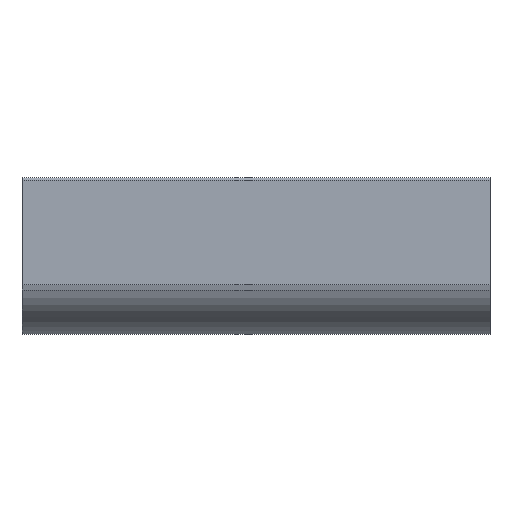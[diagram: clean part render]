
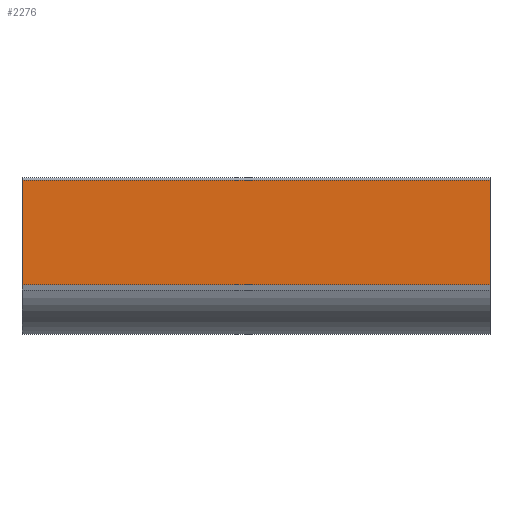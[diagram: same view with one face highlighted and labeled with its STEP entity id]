
A CAD part, top view. The second image highlights one B-rep face of the part: STEP entity #2276.
In plain terms, the highlighted planar face has unit normal (0, 0, 1).
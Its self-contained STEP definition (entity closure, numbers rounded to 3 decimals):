
#9 = EDGE_CURVE ( 'NONE', #1368, #2037, #1473, .T. ) ;
#23 = DIRECTION ( 'NONE',  ( 1., 0., 0. ) ) ;
#68 = LINE ( 'NONE', #1131, #1972 ) ;
#119 = LINE ( 'NONE', #2331, #748 ) ;
#120 = EDGE_CURVE ( 'NONE', #1368, #2212, #119, .T. ) ;
#145 = ORIENTED_EDGE ( 'NONE', *, *, #2431, .T. ) ;
#465 = VECTOR ( 'NONE', #2222, 1000. ) ;
#569 = CARTESIAN_POINT ( 'NONE',  ( 0., -1.057, 16.479 ) ) ;
#631 = FACE_OUTER_BOUND ( 'NONE', #2179, .T. ) ;
#748 = VECTOR ( 'NONE', #983, 1000. ) ;
#788 = CARTESIAN_POINT ( 'NONE',  ( -100., 0., 16.479 ) ) ;
#967 = DIRECTION ( 'NONE',  ( 0., -1., 0. ) ) ;
#983 = DIRECTION ( 'NONE',  ( 1., 0., 0. ) ) ;
#1032 = ORIENTED_EDGE ( 'NONE', *, *, #9, .T. ) ;
#1057 = VECTOR ( 'NONE', #2362, 1000. ) ;
#1130 = ORIENTED_EDGE ( 'NONE', *, *, #2371, .F. ) ;
#1131 = CARTESIAN_POINT ( 'NONE',  ( -100., -1.057, 16.479 ) ) ;
#1244 = CARTESIAN_POINT ( 'NONE',  ( 0., 21.943, 16.479 ) ) ;
#1337 = CARTESIAN_POINT ( 'NONE',  ( 0., 0., 16.479 ) ) ;
#1368 = VERTEX_POINT ( 'NONE', #1782 ) ;
#1473 = LINE ( 'NONE', #788, #1057 ) ;
#1486 = VERTEX_POINT ( 'NONE', #569 ) ;
#1605 = AXIS2_PLACEMENT_3D ( 'NONE', #2053, #2739, #967 ) ;
#1782 = CARTESIAN_POINT ( 'NONE',  ( -100., 21.943, 16.479 ) ) ;
#1972 = VECTOR ( 'NONE', #23, 1000. ) ;
#1985 = PLANE ( 'NONE',  #1605 ) ;
#2037 = VERTEX_POINT ( 'NONE', #2437 ) ;
#2053 = CARTESIAN_POINT ( 'NONE',  ( -100., 0., 16.479 ) ) ;
#2179 = EDGE_LOOP ( 'NONE', ( #1130, #2855, #1032, #145 ) ) ;
#2212 = VERTEX_POINT ( 'NONE', #1244 ) ;
#2222 = DIRECTION ( 'NONE',  ( 0., -1., 0. ) ) ;
#2276 = ADVANCED_FACE ( 'NONE', ( #631 ), #1985, .T. ) ;
#2331 = CARTESIAN_POINT ( 'NONE',  ( -100., 21.943, 16.479 ) ) ;
#2362 = DIRECTION ( 'NONE',  ( 0., -1., 0. ) ) ;
#2371 = EDGE_CURVE ( 'NONE', #2212, #1486, #2666, .T. ) ;
#2431 = EDGE_CURVE ( 'NONE', #2037, #1486, #68, .T. ) ;
#2437 = CARTESIAN_POINT ( 'NONE',  ( -100., -1.057, 16.479 ) ) ;
#2666 = LINE ( 'NONE', #1337, #465 ) ;
#2739 = DIRECTION ( 'NONE',  ( 0., 0., 1. ) ) ;
#2855 = ORIENTED_EDGE ( 'NONE', *, *, #120, .F. ) ;
